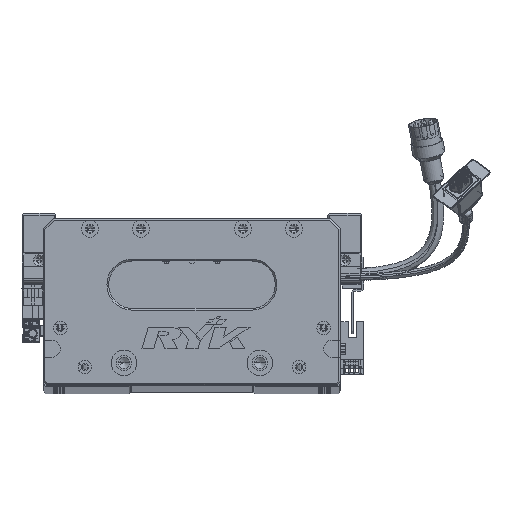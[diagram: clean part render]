
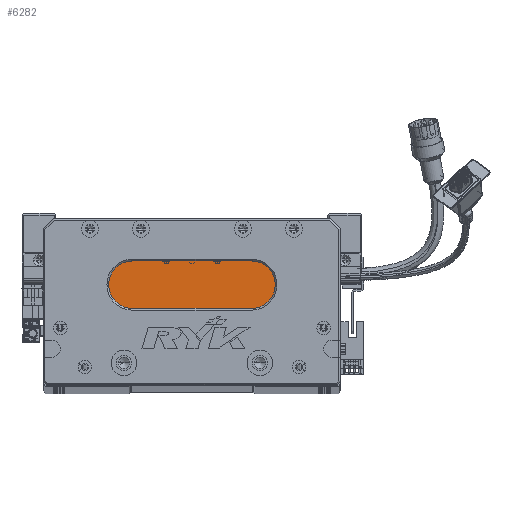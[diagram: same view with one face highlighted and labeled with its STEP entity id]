
A CAD part, top view. The second image highlights one B-rep face of the part: STEP entity #6282.
In plain terms, the highlighted planar face has unit normal (0, 0, 1) as drawn and (0, 0, -1) by its records, which use the part's own axes.
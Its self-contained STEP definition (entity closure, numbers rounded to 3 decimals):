
#30 = CARTESIAN_POINT ( 'NONE',  ( 122.5, 45., 18. ) ) ;
#675 = DIRECTION ( 'NONE',  ( 0., 0., -1. ) ) ;
#1091 = CARTESIAN_POINT ( 'NONE',  ( 122.5, 59., 18. ) ) ;
#2494 = EDGE_CURVE ( 'NONE', #121558, #95193, #31737, .T. ) ;
#3042 = CARTESIAN_POINT ( 'NONE',  ( 52.5, 59., 18. ) ) ;
#3857 = DIRECTION ( 'NONE',  ( 0., 0., -1. ) ) ;
#4599 = VECTOR ( 'NONE', #9620, 1000. ) ;
#6282 = ADVANCED_FACE ( 'NONE', ( #27606 ), #123070, .T. ) ;
#6557 = VERTEX_POINT ( 'NONE', #41859 ) ;
#9620 = DIRECTION ( 'NONE',  ( 1., 0., 0. ) ) ;
#10189 = AXIS2_PLACEMENT_3D ( 'NONE', #1091, #675, #66082 ) ;
#14319 = EDGE_LOOP ( 'NONE', ( #96616, #103119, #15185, #79224, #62666 ) ) ;
#14780 = AXIS2_PLACEMENT_3D ( 'NONE', #41816, #22673, #117580 ) ;
#15185 = ORIENTED_EDGE ( 'NONE', *, *, #2494, .T. ) ;
#22673 = DIRECTION ( 'NONE',  ( 0., 0., -1. ) ) ;
#24812 = EDGE_CURVE ( 'NONE', #91036, #40214, #45801, .T. ) ;
#26540 = CARTESIAN_POINT ( 'NONE',  ( 122.5, 59., 18. ) ) ;
#27606 = FACE_OUTER_BOUND ( 'NONE', #14319, .T. ) ;
#31387 = CIRCLE ( 'NONE', #72890, 14. ) ;
#31737 = CIRCLE ( 'NONE', #14780, 14. ) ;
#32178 = EDGE_CURVE ( 'NONE', #40214, #121558, #63474, .T. ) ;
#40214 = VERTEX_POINT ( 'NONE', #79881 ) ;
#41816 = CARTESIAN_POINT ( 'NONE',  ( 52.5, 59., 18. ) ) ;
#41859 = CARTESIAN_POINT ( 'NONE',  ( 52.5, 73., 18. ) ) ;
#45801 = CIRCLE ( 'NONE', #72233, 14. ) ;
#46299 = LINE ( 'NONE', #82917, #4599 ) ;
#51197 = CARTESIAN_POINT ( 'NONE',  ( 52.5, 45., 18. ) ) ;
#56045 = CARTESIAN_POINT ( 'NONE',  ( 122.5, 73., 18. ) ) ;
#62666 = ORIENTED_EDGE ( 'NONE', *, *, #89813, .T. ) ;
#63474 = LINE ( 'NONE', #30, #76789 ) ;
#66082 = DIRECTION ( 'NONE',  ( -1., 0., 0. ) ) ;
#72233 = AXIS2_PLACEMENT_3D ( 'NONE', #26540, #112678, #122657 ) ;
#72890 = AXIS2_PLACEMENT_3D ( 'NONE', #3042, #3857, #97907 ) ;
#76789 = VECTOR ( 'NONE', #103253, 1000. ) ;
#77732 = EDGE_CURVE ( 'NONE', #95193, #6557, #31387, .T. ) ;
#79224 = ORIENTED_EDGE ( 'NONE', *, *, #77732, .T. ) ;
#79881 = CARTESIAN_POINT ( 'NONE',  ( 122.5, 45., 18. ) ) ;
#82917 = CARTESIAN_POINT ( 'NONE',  ( 122.5, 73., 18. ) ) ;
#89813 = EDGE_CURVE ( 'NONE', #6557, #91036, #46299, .T. ) ;
#91036 = VERTEX_POINT ( 'NONE', #56045 ) ;
#93624 = CARTESIAN_POINT ( 'NONE',  ( 38.5, 59., 18. ) ) ;
#95193 = VERTEX_POINT ( 'NONE', #93624 ) ;
#96616 = ORIENTED_EDGE ( 'NONE', *, *, #24812, .T. ) ;
#97907 = DIRECTION ( 'NONE',  ( -1., 0., 0. ) ) ;
#103119 = ORIENTED_EDGE ( 'NONE', *, *, #32178, .T. ) ;
#103253 = DIRECTION ( 'NONE',  ( -1., 0., 0. ) ) ;
#112678 = DIRECTION ( 'NONE',  ( 0., 0., -1. ) ) ;
#117580 = DIRECTION ( 'NONE',  ( -1., 0., 0. ) ) ;
#121558 = VERTEX_POINT ( 'NONE', #51197 ) ;
#122657 = DIRECTION ( 'NONE',  ( -1., 0., 0. ) ) ;
#123070 = PLANE ( 'NONE',  #10189 ) ;
